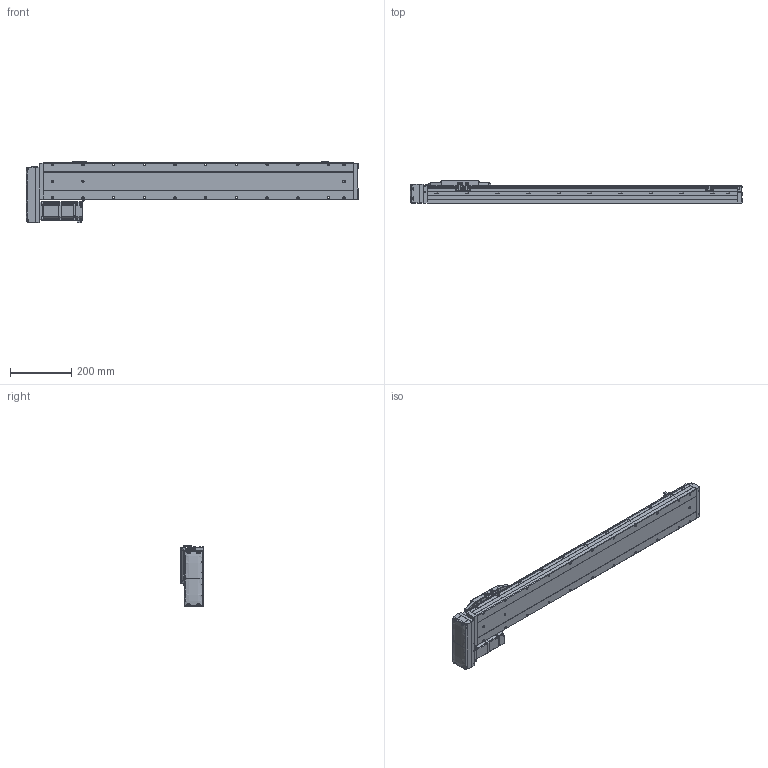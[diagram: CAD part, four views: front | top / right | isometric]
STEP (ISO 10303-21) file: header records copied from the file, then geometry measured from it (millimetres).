
FILE_DESCRIPTION (( 'STEP AP214' ), '1' );
FILE_NAME ('CTH12-L10-S800-BR-C40（简）.STEP', '2023-02-04T07:01:34', ( '' ), ( '' ), 'SwSTEP 2.0', 'SolidWorks 2018', '' );
FILE_SCHEMA (( 'AUTOMOTIVE_DESIGN' ));
Length unit declared in the file: millimetre
Products named in the file (24): CTH12-L10-S800-BR-C40（简）; 内六角圆柱头螺钉M3; 湮賑怢  裔赽-1(CTH12)賑怢; 嫖萇羲壽郪磁2; CTH12耜蚾裔; AC60_Valor predeterminado; 蚐郲; hex nuts, style 1-grades ab gb_GB_FASTENER_NUT_SNAB1 M3-N; M5蹟隊; CTH12侧装连接板（标准）简; 内六角圆柱头螺钉M3-1; 内六角圆柱头螺钉M3-2; CTH12; CTH12-BL_body_4; PM-Y45; CTH400W垫板（3个厚）; 嫖萇羲壽郪磁1; CTH12賑怢ㄗ潠ㄘ; CTH12底座-L1011简（800行程）; CTH嫖萇羲壽假蚾啣; CTH12覜茼え; CTH12賑怢郪磁; CTH400W假蚾啣; CTH12_body_3
Assembly tree (44 placements, depth 4):
  CTH12-L10-S800-BR-C40（简）
    CTH12底座-L1011简（800行程）
    蚐郲  x2
    CTH12_body_3
    CTH12-BL_body_4
    CTH12侧装连接板（标准）简
    CTH12耜蚾裔
    CTH12賑怢郪磁
      CTH12
        湮賑怢  裔赽-1(CTH12)賑怢
        CTH12賑怢ㄗ潠ㄘ
    CTH12覜茼え
    嫖萇羲壽郪磁1  x2
      CTH嫖萇羲壽假蚾啣
      PM-Y45
      内六角圆柱头螺钉M3-2
      内六角圆柱头螺钉M3-1
      hex nuts, style 1-grades ab gb_GB_FASTENER_NUT_SNAB1 M3-N
    嫖萇羲壽郪磁2
      CTH嫖萇羲壽假蚾啣
      PM-Y45
      内六角圆柱头螺钉M3-1  x2
      内六角圆柱头螺钉M3-2  x2
      hex nuts, style 1-grades ab gb_GB_FASTENER_NUT_SNAB1 M3-N  x2
    CTH400W垫板（3个厚）
    AC60_Valor predeterminado
    内六角圆柱头螺钉M3  x6
    M5蹟隊  x4
    CTH400W假蚾啣
Bounding box: 1081.5 x 76 x 201.06 mm (x, y, z)
Volume: 7505259.5 mm3; surface area: 692043.1 mm2
Topology: 47 solids, 48 shells, 2897 faces, 7386 edges, 4707 vertices
Faces by surface type: plane 1567, cylinder 807, cone 367, bspline 104, torus 52
Entity records: 84589 total; most frequent: CARTESIAN_POINT 23382, ORIENTED_EDGE 11952, DIRECTION 11631, EDGE_CURVE 5976, AXIS2_PLACEMENT_3D 3944, VERTEX_POINT 3811, LINE 3743, VECTOR 3743
